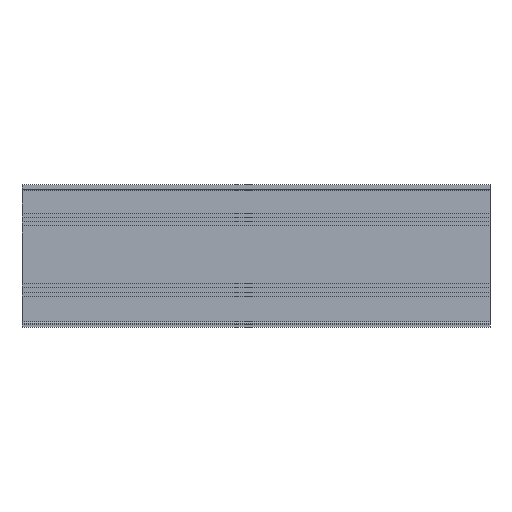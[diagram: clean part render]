
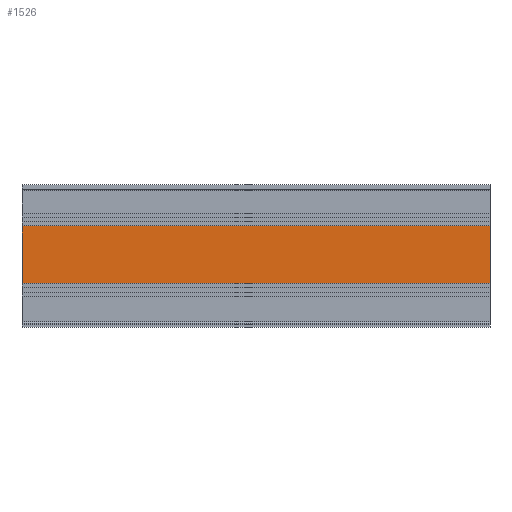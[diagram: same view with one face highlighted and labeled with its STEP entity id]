
A CAD part, front view. The second image highlights one B-rep face of the part: STEP entity #1526.
In plain terms, the highlighted planar face has unit normal (0, -1, 0).
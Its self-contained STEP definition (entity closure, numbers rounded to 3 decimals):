
#203 = VERTEX_POINT('',#204);
#204 = CARTESIAN_POINT('',(0.,16.,88.5));
#210 = EDGE_CURVE('',#203,#211,#213,.T.);
#211 = VERTEX_POINT('',#212);
#212 = CARTESIAN_POINT('',(0.,16.,211.5));
#213 = LINE('',#214,#215);
#214 = CARTESIAN_POINT('',(0.,16.,0.));
#215 = VECTOR('',#216,1.);
#216 = DIRECTION('',(0.,0.,1.));
#1485 = VERTEX_POINT('',#1486);
#1486 = CARTESIAN_POINT('',(1000.,16.,88.5));
#1492 = EDGE_CURVE('',#203,#1485,#1493,.T.);
#1493 = LINE('',#1494,#1495);
#1494 = CARTESIAN_POINT('',(0.,16.,88.5));
#1495 = VECTOR('',#1496,1.);
#1496 = DIRECTION('',(1.,0.,-0.));
#1507 = EDGE_CURVE('',#211,#1508,#1510,.T.);
#1508 = VERTEX_POINT('',#1509);
#1509 = CARTESIAN_POINT('',(1000.,16.,211.5));
#1510 = LINE('',#1511,#1512);
#1511 = CARTESIAN_POINT('',(0.,16.,211.5));
#1512 = VECTOR('',#1513,1.);
#1513 = DIRECTION('',(1.,0.,-0.));
#1526 = ADVANCED_FACE('',(#1527),#1538,.F.);
#1527 = FACE_BOUND('',#1528,.F.);
#1528 = EDGE_LOOP('',(#1529,#1535,#1536,#1537));
#1529 = ORIENTED_EDGE('',*,*,#1530,.F.);
#1530 = EDGE_CURVE('',#1485,#1508,#1531,.T.);
#1531 = LINE('',#1532,#1533);
#1532 = CARTESIAN_POINT('',(1000.,16.,0.));
#1533 = VECTOR('',#1534,1.);
#1534 = DIRECTION('',(0.,0.,1.));
#1535 = ORIENTED_EDGE('',*,*,#1492,.F.);
#1536 = ORIENTED_EDGE('',*,*,#210,.T.);
#1537 = ORIENTED_EDGE('',*,*,#1507,.T.);
#1538 = PLANE('',#1539);
#1539 = AXIS2_PLACEMENT_3D('',#1540,#1541,#1542);
#1540 = CARTESIAN_POINT('',(0.,16.,0.));
#1541 = DIRECTION('',(-0.,1.,0.));
#1542 = DIRECTION('',(0.,0.,1.));
